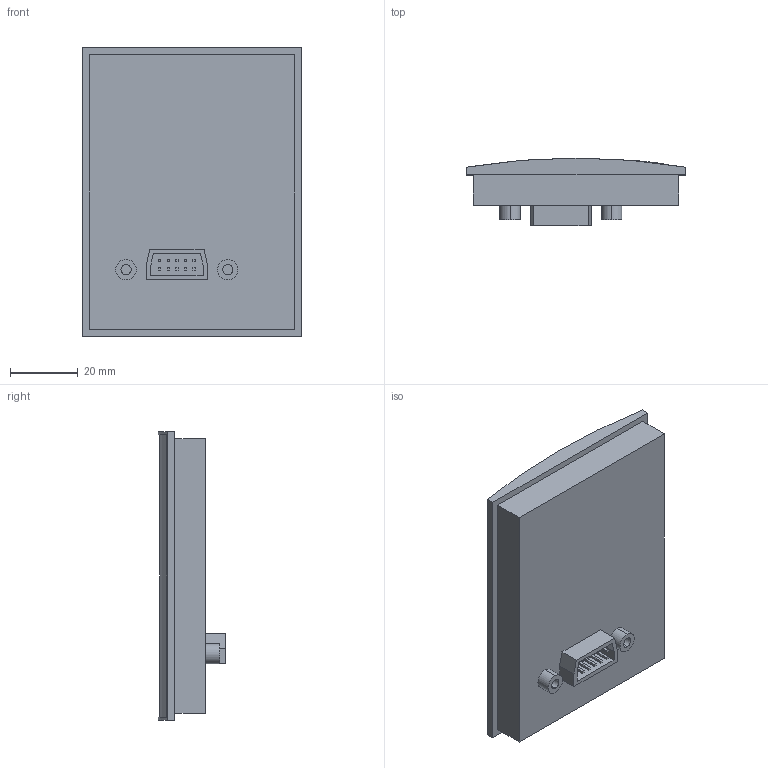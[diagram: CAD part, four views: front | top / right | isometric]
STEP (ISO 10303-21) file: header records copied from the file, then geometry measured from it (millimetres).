
FILE_DESCRIPTION (( 'STEP AP214' ), '1' );
FILE_NAME ('Ïàíåëü îïåðàòîðà ËÏÎ1.STEP', '2016-05-19T09:31:07', ( '' ), ( '' ), 'SwSTEP 2.0', 'SolidWorks 2014', '' );
FILE_SCHEMA (( 'AUTOMOTIVE_DESIGN' ));
Length unit declared in the file: millimetre
Products named in the file (1): Ïàíåëü îïåðàòîðà ËÏÎ1
Bounding box: 64.5 x 19.9 x 85 mm (x, y, z)
Volume: 64015.2 mm3; surface area: 15565.1 mm2
Topology: 1 solids, 1 shells, 98 faces, 228 edges, 152 vertices
Faces by surface type: plane 82, cylinder 12, bspline 4
Entity records: 4062 total; most frequent: CARTESIAN_POINT 1239, ORIENTED_EDGE 456, DIRECTION 428, EDGE_CURVE 228, LINE 194, VECTOR 194, VERTEX_POINT 152, EDGE_LOOP 118
